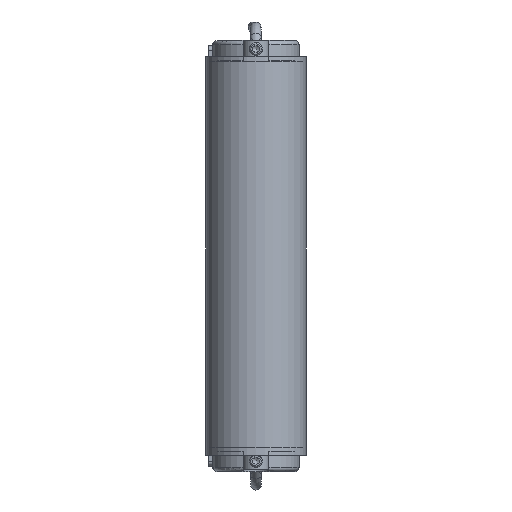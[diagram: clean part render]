
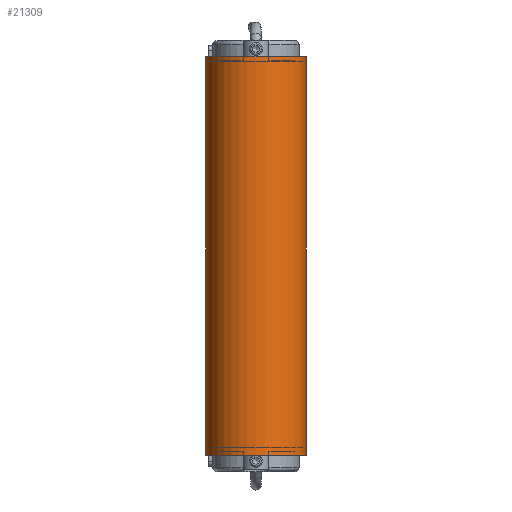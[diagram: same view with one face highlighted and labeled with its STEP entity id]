
A CAD part, front view. The second image highlights one B-rep face of the part: STEP entity #21309.
In plain terms, the highlighted cylindrical face has radius 23.3 mm (diameter 46.6 mm), a partial arc.
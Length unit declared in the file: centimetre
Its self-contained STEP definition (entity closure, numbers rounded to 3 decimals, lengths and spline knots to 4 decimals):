
#621=CYLINDRICAL_SURFACE('',#22808,2.33);
#1365=CIRCLE('',#22803,2.33);
#1368=CIRCLE('',#22809,2.33);
#2291=FACE_OUTER_BOUND('',#3453,.T.);
#3453=EDGE_LOOP('',(#14484,#14485,#14486,#14487));
#4909=LINE('',#31629,#6558);
#4910=LINE('',#31633,#6559);
#6558=VECTOR('',#25837,1.);
#6559=VECTOR('',#25842,1.);
#8453=VERTEX_POINT('',#31612);
#8454=VERTEX_POINT('',#31613);
#8459=VERTEX_POINT('',#31627);
#8460=VERTEX_POINT('',#31631);
#10780=EDGE_CURVE('',#8453,#8454,#1365,.T.);
#10788=EDGE_CURVE('',#8459,#8454,#4909,.T.);
#10789=EDGE_CURVE('',#8459,#8460,#1368,.T.);
#10790=EDGE_CURVE('',#8453,#8460,#4910,.T.);
#14484=ORIENTED_EDGE('',*,*,#10789,.T.);
#14485=ORIENTED_EDGE('',*,*,#10790,.F.);
#14486=ORIENTED_EDGE('',*,*,#10780,.T.);
#14487=ORIENTED_EDGE('',*,*,#10788,.F.);
#21309=ADVANCED_FACE('',(#2291),#621,.T.);
#22803=AXIS2_PLACEMENT_3D('',#31614,#25822,#25823);
#22808=AXIS2_PLACEMENT_3D('',#31630,#25838,#25839);
#22809=AXIS2_PLACEMENT_3D('',#31632,#25840,#25841);
#25822=DIRECTION('center_axis',(0.,0.,
-1.));
#25823=DIRECTION('ref_axis',(-1.,0.,0.));
#25837=DIRECTION('',(0.,0.,1.));
#25838=DIRECTION('center_axis',(0.,0.,
-1.));
#25839=DIRECTION('ref_axis',(-1.,0.,0.));
#25840=DIRECTION('center_axis',(0.,0.,
1.));
#25841=DIRECTION('ref_axis',(-1.,0.,0.));
#25842=DIRECTION('',(0.,0.,-1.));
#31612=CARTESIAN_POINT('',(2.33,-147.,9.25));
#31613=CARTESIAN_POINT('',(-2.33,-147.,9.25));
#31614=CARTESIAN_POINT('Origin',(0.,-147.,9.25));
#31627=CARTESIAN_POINT('',(-2.33,-147.,-9.25));
#31629=CARTESIAN_POINT('',(-2.33,-147.,0.));
#31630=CARTESIAN_POINT('Origin',(0.,-147.,0.));
#31631=CARTESIAN_POINT('',(2.33,-147.,-9.25));
#31632=CARTESIAN_POINT('Origin',(0.,-147.,-9.25));
#31633=CARTESIAN_POINT('',(2.33,-147.,0.));
